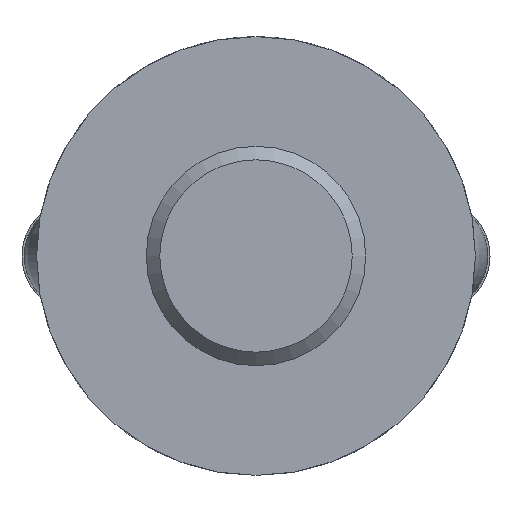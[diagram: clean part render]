
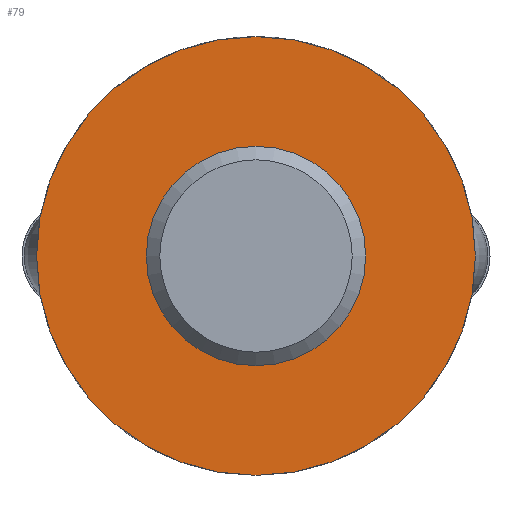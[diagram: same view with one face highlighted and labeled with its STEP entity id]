
A CAD part, front view. The second image highlights one B-rep face of the part: STEP entity #79.
In plain terms, the highlighted planar face has unit normal (0, -1, 0).
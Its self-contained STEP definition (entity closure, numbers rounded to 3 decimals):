
#79 = ADVANCED_FACE( '', ( #115, #116 ), #117, .F. );
#115 = FACE_BOUND( '', #186, .T. );
#116 = FACE_OUTER_BOUND( '', #187, .T. );
#117 = PLANE( '', #188 );
#186 = EDGE_LOOP( '', ( #276 ) );
#187 = EDGE_LOOP( '', ( #277 ) );
#188 = AXIS2_PLACEMENT_3D( '', #278, #279, #280 );
#276 = ORIENTED_EDGE( '', *, *, #464, .T. );
#277 = ORIENTED_EDGE( '', *, *, #465, .T. );
#278 = CARTESIAN_POINT( '', ( 45., 0., 0. ) );
#279 = DIRECTION( '', ( 0., 1., 0. ) );
#280 = DIRECTION( '', ( 0., 0., 1. ) );
#464 = EDGE_CURVE( '', #539, #539, #540, .T. );
#465 = EDGE_CURVE( '', #541, #541, #542, .T. );
#539 = VERTEX_POINT( '', #825 );
#540 = CIRCLE( '', #826, 22.5 );
#541 = VERTEX_POINT( '', #827 );
#542 = CIRCLE( '', #828, 45. );
#825 = CARTESIAN_POINT( '', ( 0., 0., 22.5 ) );
#826 = AXIS2_PLACEMENT_3D( '', #1147, #1148, #1149 );
#827 = CARTESIAN_POINT( '', ( 0., 0., -45. ) );
#828 = AXIS2_PLACEMENT_3D( '', #1150, #1151, #1152 );
#1147 = CARTESIAN_POINT( '', ( 0., 0., 0. ) );
#1148 = DIRECTION( '', ( 0., 1., 0. ) );
#1149 = DIRECTION( '', ( 0., 0., 1. ) );
#1150 = CARTESIAN_POINT( '', ( 0., 0., 0. ) );
#1151 = DIRECTION( '', ( 0., -1., 0. ) );
#1152 = DIRECTION( '', ( 0., 0., -1. ) );
